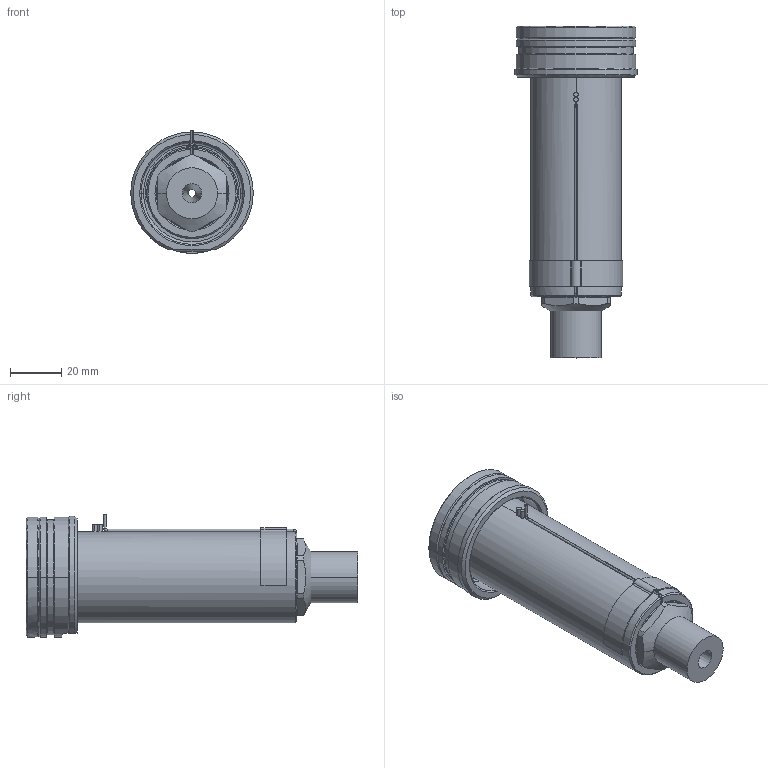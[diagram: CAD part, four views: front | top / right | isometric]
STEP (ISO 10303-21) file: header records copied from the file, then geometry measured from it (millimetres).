
FILE_DESCRIPTION((''),'2;1');
FILE_NAME('EO16_SG_ESG_100_SW','2024-02-19T12:34:57',('sundharh'),(''),'CREO PARAMETRIC BY PTC INC, 2023154','CREO PARAMETRIC BY PTC INC, 2023154','');
FILE_SCHEMA(('CONFIG_CONTROL_DESIGN'));
Length unit declared in the file: millimetre
Products named in the file (1): EO16_SG_ESG_100_SW
Bounding box: 47.97 x 130 x 48 mm (x, y, z)
Volume: 104062.9 mm3; surface area: 27429.7 mm2
Topology: 1 solids, 1 shells, 164 faces, 403 edges, 245 vertices
Faces by surface type: cylinder 64, plane 45, cone 31, torus 14, bspline 7, sphere 3
Entity records: 5545 total; most frequent: CARTESIAN_POINT 1614, DIRECTION 868, ORIENTED_EDGE 790, EDGE_CURVE 395, AXIS2_PLACEMENT_3D 358, VERTEX_POINT 245, CIRCLE 201, EDGE_LOOP 180
